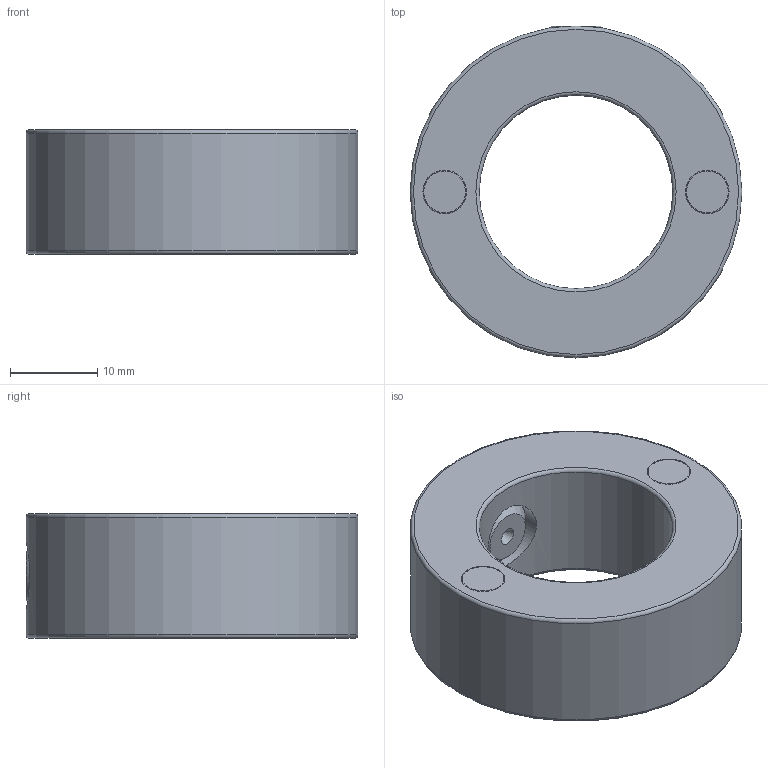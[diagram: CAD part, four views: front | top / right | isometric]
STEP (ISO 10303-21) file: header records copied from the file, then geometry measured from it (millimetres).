
FILE_DESCRIPTION(/* description */ (''),/* implementation_level */ '2;1');
FILE_NAME(/* name */ 'MAG-COL-7-8-CUST-ASSY.step',/* time_stamp */ '2025-10-02T15:06:13-05:00',/* author */ (''),/* organization */ (''),/* preprocessor_version */ 'ST-DEVELOPER v20.1',/* originating_system */ 'Autodesk Translation Framework v14.17.0.0',/* authorisation */ '');
FILE_SCHEMA (('AUTOMOTIVE_DESIGN { 1 0 10303 214 3 1 1 }'));
Length unit declared in the file: inch
Products named in the file (2): MAG-COL-7-8-CUST-ASSY; CYL0159
Assembly tree (2 placements, depth 2):
  MAG-COL-7-8-CUST-ASSY
    CYL0159  x2
Bounding box: 38.1 x 38.1 x 14.29 mm (x, y, z)
Volume: 10489.5 mm3; surface area: 5320.3 mm2
Topology: 4 solids, 4 shells, 34 faces, 71 edges, 46 vertices
Faces by surface type: plane 15, torus 8, cylinder 8, cone 3
Full cylindrical faces by diameter (mm): 5 x4, 7.938 x2, 22.225 x1, 38.1 x1
Entity records: 950 total; most frequent: CARTESIAN_POINT 206, DIRECTION 158, ORIENTED_EDGE 126, AXIS2_PLACEMENT_3D 65, EDGE_CURVE 63, VERTEX_POINT 42, EDGE_LOOP 39, CIRCLE 32
